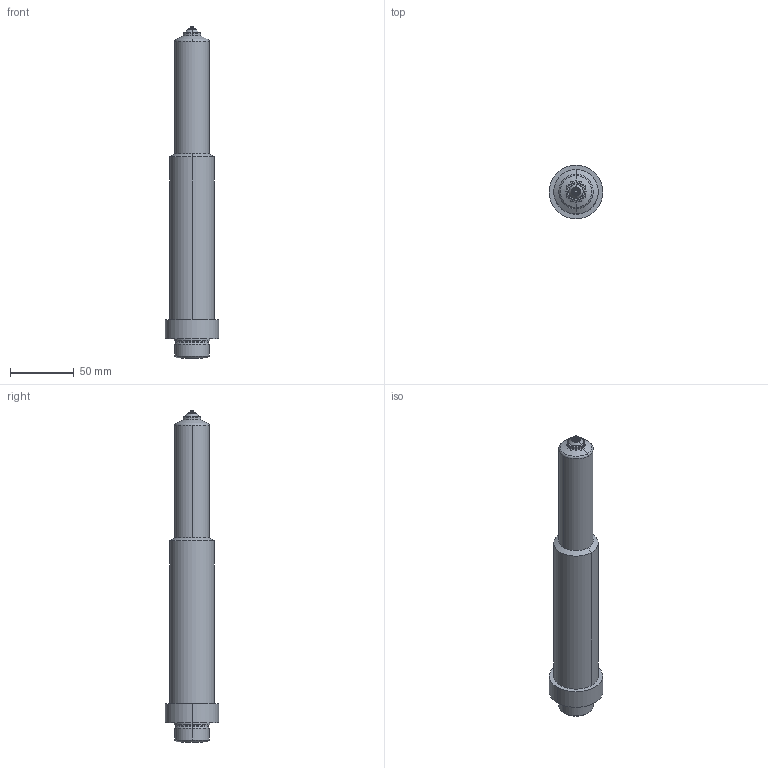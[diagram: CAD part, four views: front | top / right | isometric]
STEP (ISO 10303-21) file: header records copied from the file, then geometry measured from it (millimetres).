
FILE_DESCRIPTION (( 'STEP AP214' ), '1' );
FILE_NAME ('09EX12-03-245-VSW.step', '2023-04-19T08:36:43', ( '' ), ( '' ), 'SwSTEP 2.0', 'SolidWorks 2018', '' );
FILE_SCHEMA (( 'AUTOMOTIVE_DESIGN' ));
Length unit declared in the file: millimetre
Products named in the file (1): 09EX12-03-245-VSW
Bounding box: 42 x 42 x 260.15 mm (x, y, z)
Volume: 340607.1 mm3; surface area: 90676.1 mm2
Topology: 4 solids, 4 shells, 530 faces, 1347 edges, 831 vertices
Faces by surface type: cylinder 213, plane 158, torus 87, cone 60, bspline 6, sphere 6
Entity records: 25902 total; most frequent: CARTESIAN_POINT 6993, DIRECTION 2895, ORIENTED_EDGE 2686, EDGE_CURVE 1343, AXIS2_PLACEMENT_3D 1155, VERTEX_POINT 829, CIRCLE 630, VECTOR 585
